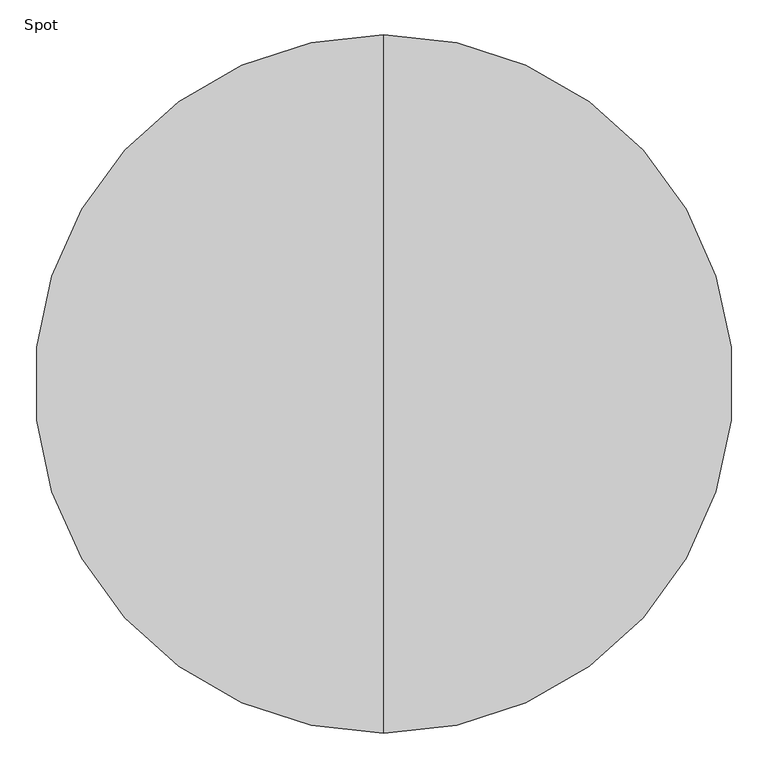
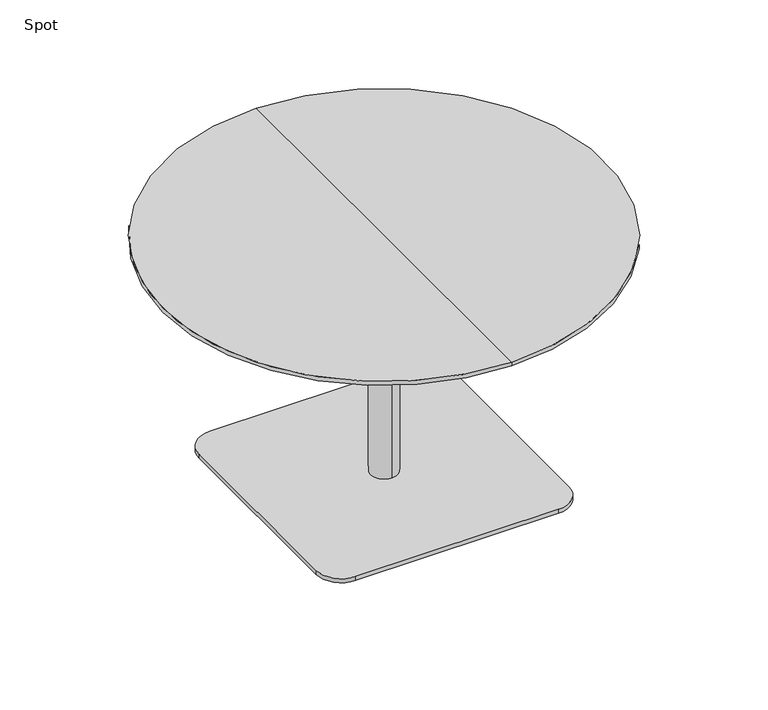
"""IFC4 building model written with IfcOpenShell, lengths in millimetres: furniture geometry, Spot : ø105x60s."""

from ifc_helpers import new_model, si_unit, point, frame, frame_2d, origin, origin_with_axes, place, context, project, spatial, polyline, circle_curve, trimmed, segment, composite_curve, outline, extrude, source, transform, mapped, element, save
from ifc_brep_helpers import plane_surface, cylinder_surface, revolved_surface, advanced_brep


def spot_6a54facb(model_context):
    return source(origin(), model_context, "Body", "SolidModel", [
        advanced_brep(
        [(0.0, -525.0, 600.0), (0.0, 525.0, 600.0), (0.0, 0.0, 600.0), (0.0, 525.0, 590.25), (0.0, -525.0, 590.25), (0.0, 0.0, 578.0), (0.0, -479.2823776, 578.0), (0.0, 479.2823776, 578.0)],
        [
            (0, 1, circle_curve(frame((0.0, 0.0, 600.0), z_axis=(0.0, 0.0, 1.0), x_axis=(0.0, -1.0, 0.0)), 525.0)),
            (1, 2),
            (2, 0),
            (3, 4, circle_curve(frame((0.0, 0.0, 590.25), z_axis=(0.0, 0.0, 1.0), x_axis=(0.0, -1.0, 0.0)), 525.0)),
            (4, 0),
            (0, 1, circle_curve(frame((0.0, 0.0, 600.0), z_axis=(0.0, 0.0, -1.0), x_axis=(0.0, -1.0, 0.0)), 525.0)),
            (1, 3),
            (5, 6),
            (6, 7, circle_curve(frame((0.0, 0.0, 578.0), z_axis=(0.0, 0.0, -1.0), x_axis=(0.0, -1.0, 0.0)), 479.2823776)),
            (7, 5),
            (7, 6, circle_curve(frame((0.0, 0.0, 578.0), z_axis=(0.0, 0.0, -1.0), x_axis=(0.0, -1.0, 0.0)), 479.2823776)),
            (4, 3, circle_curve(frame((0.0, 0.0, 590.25), z_axis=(0.0, 0.0, 1.0), x_axis=(0.0, -1.0, 0.0)), 525.0)),
            (6, 4),
            (3, 7),
        ],
        [
            plane_surface(frame((0.0, 0.0, 600.0), z_axis=(0.0, 0.0, 1.0), x_axis=(0.0, -1.0, 0.0))),
            cylinder_surface(frame((0.0, 0.0, 680.0), z_axis=(0.0, 0.0, -1.0), x_axis=(0.0, -1.0, 0.0)), 525.0),
            plane_surface(frame((0.0, 0.0, 578.0), z_axis=(0.0, 0.0, -1.0), x_axis=(0.0, -1.0, 0.0))),
            revolved_surface(polyline([(0.0, -525.0, 590.25), (0.0, -479.2823776, 578.0)]), (0.0, 0.0, 680.0), (0.0, 0.0, -1.0)),
        ],
        [
            (0, [[1, 2, 3]]),
            (1, [[4, 5, 6, 7]]),
            (2, [[8, 9, 10]]),
            (2, [[-10, 11, -8]]),
            (0, [[-6, -3, -2]]),
            (1, [[12, -7, -1, -5]]),
            (3, [[-9, 13, -4, 14]]),
            (3, [[-11, -14, -12, -13]]),
        ],
    ),
        extrude(outline(composite_curve([segment(trimmed(circle_curve(frame_2d((240.0, 240.0)), 60.0), [point((240.0, 300.0))], [point((300.0, 240.0))], False, "CARTESIAN"), True, "CONTINUOUS"), segment(polyline([(300.0, 240.0), (300.0, -240.0)]), True, "CONTINUOUS"), segment(trimmed(circle_curve(frame_2d((240.0, -240.0)), 60.0), [point((300.0, -240.0))], [point((240.0, -300.0))], False, "CARTESIAN"), True, "CONTINUOUS"), segment(polyline([(240.0, -300.0), (-240.0, -300.0)]), True, "CONTINUOUS"), segment(trimmed(circle_curve(frame_2d((-240.0, -240.0)), 60.0), [point((-240.0, -300.0))], [point((-300.0, -240.0))], False, "CARTESIAN"), True, "CONTINUOUS"), segment(polyline([(-300.0, -240.0), (-300.0, 240.0)]), True, "CONTINUOUS"), segment(trimmed(circle_curve(frame_2d((-240.0, 240.0)), 60.0), [point((-300.0, 240.0))], [point((-240.0, 300.0))], False, "CARTESIAN"), True, "CONTINUOUS"), segment(polyline([(-240.0, 300.0), (240.0, 300.0)]), True, "CONTINUOUS")], self_intersect=False)), origin_with_axes(), (0.0, 0.0, 1.0), 10.0),
        advanced_brep(
        [(0.0, 32.0, 10.0), (0.0, -32.0, 10.0), (0.0, -32.0, 547.406916), (0.0, 32.0, 547.406916), (0.0, 0.0, 10.0), (0.0, 150.0, 578.0), (0.0, -150.0, 578.0), (0.0, 0.0, 578.0), (0.0, 150.0, 566.7213673), (0.0, -150.0, 566.7213673)],
        [
            (0, 1, circle_curve(frame((0.0, 0.0, 10.0), z_axis=(0.0, 0.0, 1.0), x_axis=(0.0, -1.0, 0.0)), 32.0)),
            (1, 2),
            (2, 3, circle_curve(frame((0.0, 0.0, 547.406916), z_axis=(0.0, 0.0, -1.0), x_axis=(0.0, -1.0, 0.0)), 32.0)),
            (3, 0),
            (1, 0, circle_curve(frame((0.0, 0.0, 10.0), z_axis=(0.0, 0.0, 1.0), x_axis=(0.0, -1.0, 0.0)), 32.0)),
            (3, 2, circle_curve(frame((0.0, 0.0, 547.406916), z_axis=(0.0, 0.0, -1.0), x_axis=(0.0, -1.0, 0.0)), 32.0)),
            (4, 1),
            (0, 4),
            (5, 6, circle_curve(frame((0.0, 0.0, 578.0), z_axis=(0.0, 0.0, 1.0), x_axis=(0.0, -1.0, 0.0)), 150.0)),
            (6, 7),
            (7, 5),
            (6, 5, circle_curve(frame((0.0, 0.0, 578.0), z_axis=(0.0, 0.0, 1.0), x_axis=(0.0, -1.0, 0.0)), 150.0)),
            (8, 9, circle_curve(frame((0.0, 0.0, 566.7213673), z_axis=(0.0, 0.0, 1.0), x_axis=(0.0, -1.0, 0.0)), 150.0)),
            (9, 6),
            (5, 8),
            (9, 8, circle_curve(frame((0.0, 0.0, 566.7213673), z_axis=(0.0, 0.0, 1.0), x_axis=(0.0, -1.0, 0.0)), 150.0)),
            (2, 9),
            (8, 3),
        ],
        [
            cylinder_surface(frame((0.0, 0.0, 940.0), z_axis=(0.0, 0.0, -1.0), x_axis=(0.0, -1.0, 0.0)), 32.0),
            plane_surface(frame((0.0, 0.0, 10.0), z_axis=(0.0, 0.0, -1.0), x_axis=(0.0, -1.0, 0.0))),
            plane_surface(frame((0.0, 0.0, 578.0), z_axis=(0.0, 0.0, 1.0), x_axis=(0.0, -1.0, 0.0))),
            cylinder_surface(frame((0.0, 0.0, 940.0), z_axis=(0.0, 0.0, -1.0), x_axis=(0.0, -1.0, 0.0)), 150.0),
            revolved_surface(polyline([(0.0, -150.0, 566.7213673), (0.0, -32.0, 547.406916)]), (0.0, 0.0, 940.0), (0.0, 0.0, -1.0)),
        ],
        [
            (0, [[1, 2, 3, 4]]),
            (0, [[5, -4, 6, -2]]),
            (1, [[7, -1, 8]]),
            (1, [[-8, -5, -7]]),
            (2, [[9, 10, 11]]),
            (2, [[12, -11, -10]]),
            (3, [[13, 14, -9, 15]]),
            (3, [[16, -15, -12, -14]]),
            (4, [[-3, 17, -13, 18]]),
            (4, [[-6, -18, -16, -17]]),
        ],
    ),
        extrude(outline(polyline([(0.0, 0.0), (-20.0, 0.0), (-20.0, 20.0), (0.0, 20.0), (0.0, 0.0)])), origin_with_axes(), (0.0, 0.0, 1.0), 10.0),
    ])


if __name__ == "__main__":
    model = new_model("IFC4")
    model_context = context("Model", 3, world=origin())
    ifc_project = project(units=[si_unit("LENGTHUNIT", "METRE", prefix="MILLI")], contexts=[model_context])
    site = spatial("IfcSite", under=ifc_project)
    building = spatial("IfcBuilding", under=site)
    placement = place(None, origin())
    spot_shape = spot_6a54facb(model_context)
    element("IfcFurniture", 1, ObjectType="Spot : ø105x60s", at=placement, inside=building, context=model_context, shape_type="MappedRepresentation", body=[
        mapped(spot_shape, transform((0.0, 0.0, 0.0), x_axis=(1.0, 0.0, 0.0), y_axis=(0.0, 1.0, 0.0), z_axis=(0.0, 0.0, 1.0))),
    ])
    save(model, "model.ifc")
